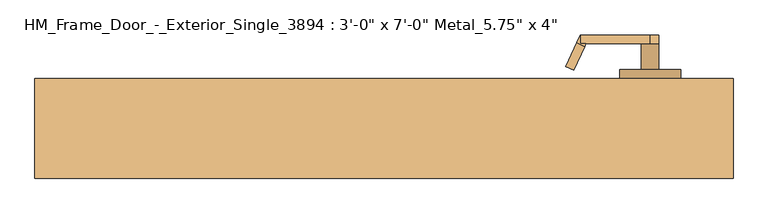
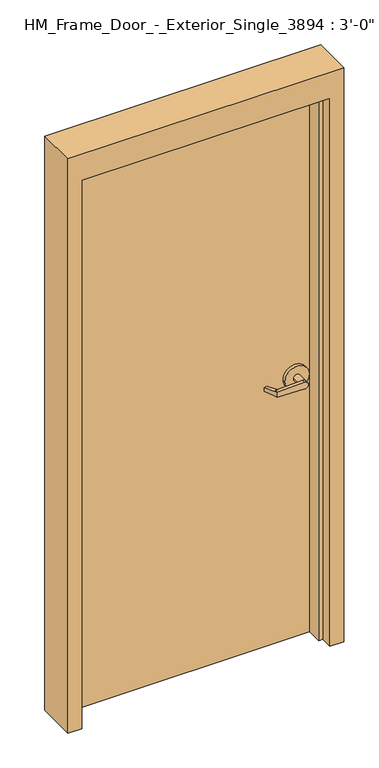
"""IFC4 building model written with IfcOpenShell, lengths in millimetres: door geometry."""

from ifc_helpers import new_model, si_unit, frame, origin, origin_with_axes, place, context, project, spatial, polyline, circle_curve, outline, extrude, faceted_brep, source, transform, mapped, element, save
from ifc_brep_helpers import plane_surface, cylinder_surface, advanced_brep


def door_65ba9089(model_context):
    return source(origin(), model_context, "Body", "SolidModel", [
        advanced_brep(
        [(291.892857, 35.9273608, 1006.475), (275.7911012, 70.4576875, 1009.65), (275.7911012, 70.4576875, 1022.35), (291.892857, 35.9273608, 1025.525), (293.8407923, 31.75, 1025.525), (293.8407923, 31.75, 1006.475), (285.75, 19.05, 1025.525), (280.3827481, 30.5601089, 1025.525), (264.2809923, 65.0904356, 1022.35), (264.2809923, 65.0904356, 1009.65), (280.3827481, 30.5601089, 1006.475), (285.75, 19.05, 1006.475), (285.75, 31.75, 1006.475), (285.75, 31.75, 1025.525), (386.9525418, 19.05, 1003.3062209), (386.9525418, 19.05, 1028.6937791), (386.9525418, 31.75, 1028.6937791), (374.65, 31.75, 1016.0), (386.9525418, 31.75, 1003.3062209), (400.05, 31.75, 1016.0), (400.05, 69.85, 1016.0), (374.65, 69.85, 1016.0), (431.8, 69.85, 1016.0), (342.9, 69.85, 1016.0), (431.8, 82.55, 1016.0), (342.9, 82.55, 1016.0)],
        [
            (0, 1),
            (1, 2),
            (2, 3),
            (3, 4),
            (4, 5),
            (5, 0),
            (6, 7),
            (7, 8),
            (8, 9),
            (9, 10),
            (10, 11),
            (11, 6),
            (10, 0),
            (5, 12),
            (12, 11),
            (9, 1),
            (8, 2),
            (7, 3),
            (6, 13),
            (13, 4),
            (11, 14),
            (14, 15, circle_curve(frame((387.35, 19.05, 1016.0), z_axis=(0.0, -1.0, 0.0), x_axis=(-1.0, 0.0, 0.0)), 12.7)),
            (15, 6),
            (13, 16),
            (16, 17, circle_curve(frame((387.35, 31.75, 1016.0), z_axis=(0.0, -1.0, 0.0), x_axis=(-1.0, 0.0, 0.0)), 12.7)),
            (17, 18, circle_curve(frame((387.35, 31.75, 1016.0), z_axis=(0.0, -1.0, 0.0), x_axis=(-1.0, 0.0, 0.0)), 12.7)),
            (18, 12),
            (18, 14),
            (18, 19, circle_curve(frame((387.35, 31.75, 1016.0), z_axis=(0.0, -1.0, 0.0), x_axis=(-1.0, 0.0, 0.0)), 12.7)),
            (19, 16, circle_curve(frame((387.35, 31.75, 1016.0), z_axis=(0.0, -1.0, 0.0), x_axis=(-1.0, 0.0, 0.0)), 12.7)),
            (16, 15),
            (19, 20),
            (20, 21, circle_curve(frame((387.35, 69.85, 1016.0), z_axis=(0.0, -1.0, 0.0), x_axis=(-1.0, 0.0, 0.0)), 12.7)),
            (21, 17),
            (21, 20, circle_curve(frame((387.35, 69.85, 1016.0), z_axis=(0.0, -1.0, 0.0), x_axis=(-1.0, 0.0, 0.0)), 12.7)),
            (22, 23, circle_curve(frame((387.35, 69.85, 1016.0), z_axis=(0.0, -1.0, 0.0), x_axis=(-1.0, 0.0, 0.0)), 44.45)),
            (23, 22, circle_curve(frame((387.35, 69.85, 1016.0), z_axis=(0.0, -1.0, 0.0), x_axis=(-1.0, 0.0, 0.0)), 44.45)),
            (24, 25, circle_curve(frame((387.35, 82.55, 1016.0), z_axis=(0.0, 1.0, 0.0), x_axis=(-1.0, 0.0, 0.0)), 44.45)),
            (25, 24, circle_curve(frame((387.35, 82.55, 1016.0), z_axis=(0.0, 1.0, 0.0), x_axis=(-1.0, 0.0, 0.0)), 44.45)),
            (22, 24),
            (25, 23),
        ],
        [
            plane_surface(frame((297.2601089, 24.4172519, 1006.475), z_axis=(0.9063077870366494, 0.4226182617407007, 0.0), x_axis=(0.0, 0.0, -1.0))),
            plane_surface(frame((285.75, 19.05, 1006.475), z_axis=(-0.9063077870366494, -0.4226182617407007, 0.0), x_axis=(0.0, 0.0, 1.0))),
            plane_surface(frame((297.2601089, 24.4172519, 1006.475), z_axis=(0.0, 0.0, -1.0000000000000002), x_axis=(-0.9063077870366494, -0.42261826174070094, 0.0))),
            plane_surface(frame((291.892857, 35.9273608, 1006.475), z_axis=(-0.035096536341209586, 0.07526476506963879, -0.9965457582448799), x_axis=(-0.9063077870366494, -0.42261826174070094, 0.0))),
            plane_surface(frame((275.7911012, 70.4576875, 1009.65), z_axis=(-0.42261826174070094, 0.9063077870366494, 0.0), x_axis=(-0.9063077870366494, -0.42261826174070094, 0.0))),
            plane_surface(frame((275.7911012, 70.4576875, 1022.35), z_axis=(-0.03509653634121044, 0.07526476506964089, 0.9965457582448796), x_axis=(-0.9063077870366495, -0.42261826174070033, 0.0))),
            plane_surface(frame((291.892857, 35.9273608, 1025.525), z_axis=(0.0, 0.0, 1.0000000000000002), x_axis=(-0.9063077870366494, -0.42261826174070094, 0.0))),
            plane_surface(frame((285.75, 19.05, 1006.475), z_axis=(0.0, -1.0, 0.0), x_axis=(0.9995101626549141, 0.0, -0.03129592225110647))),
            plane_surface(frame((285.75, 31.75, 1006.475), z_axis=(0.0, 1.0, 0.0), x_axis=(-0.9995101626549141, 0.0, 0.03129592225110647))),
            plane_surface(frame((285.75, 19.05, 1006.475), z_axis=(-0.03129592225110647, 0.0, -0.9995101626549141), x_axis=(0.0, 1.0, 0.0))),
            cylinder_surface(frame((387.35, 31.75, 1016.0), z_axis=(0.0, -1.0, 0.0), x_axis=(-1.0, 0.0, 0.0)), 12.7),
            plane_surface(frame((386.9525418, 19.05, 1028.6937791), z_axis=(-0.03129592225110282, 0.0, 0.9995101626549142), x_axis=(0.0, 1.0, 0.0))),
            cylinder_surface(frame((387.35, 69.85, 1016.0), z_axis=(0.0, -1.0, 0.0), x_axis=(-1.0, 0.0, 0.0)), 12.7),
            plane_surface(frame((342.9, 69.85, 1016.0), z_axis=(0.0, -1.0, 0.0), x_axis=(0.0, 0.0, -1.0))),
            plane_surface(frame((342.9, 82.55, 1016.0), z_axis=(0.0, 1.0, 0.0), x_axis=(0.0, 0.0, 1.0))),
            cylinder_surface(frame((387.35, 82.55, 1016.0), z_axis=(0.0, -1.0, 0.0), x_axis=(-1.0, 0.0, 0.0)), 44.45),
        ],
        [
            (0, [[1, 2, 3, 4, 5, 6]]),
            (1, [[7, 8, 9, 10, 11, 12]]),
            (2, [[-11, 13, -6, 14, 15]]),
            (3, [[-1, -13, -10, 16]]),
            (4, [[-2, -16, -9, 17]]),
            (5, [[-3, -17, -8, 18]]),
            (6, [[-7, 19, 20, -4, -18]]),
            (7, [[21, 22, 23, -12]]),
            (8, [[24, 25, 26, 27, -14, -5, -20]]),
            (9, [[-21, -15, -27, 28]]),
            (10, [[-22, -28, 29, 30, 31]]),
            (11, [[-23, -31, -24, -19]]),
            (12, [[32, 33, 34, -25, -30]]),
            (12, [[-32, -29, -26, -34, 35]]),
            (13, [[36, 37], [-33, -35]]),
            (14, [[38, 39]]),
            (15, [[-36, 40, -39, 41]]),
            (15, [[-37, -41, -38, -40]]),
        ],
    ),
        advanced_brep(
        [(291.892857, 173.6226392, 1025.525), (275.7911012, 139.0923125, 1022.35), (275.7911012, 139.0923125, 1009.65), (291.892857, 173.6226392, 1006.475), (293.8407923, 177.8, 1006.475), (293.8407923, 177.8, 1025.525), (285.75, 190.5, 1006.475), (280.3827481, 178.9898911, 1006.475), (264.2809923, 144.4595644, 1009.65), (264.2809923, 144.4595644, 1022.35), (280.3827481, 178.9898911, 1025.525), (285.75, 190.5, 1025.525), (285.75, 177.8, 1025.525), (285.75, 177.8, 1006.475), (386.9525418, 190.5, 1028.6937791), (386.9525418, 190.5, 1003.3062209), (386.9525418, 177.8, 1003.3062209), (374.65, 177.8, 1016.0), (386.9525418, 177.8, 1028.6937791), (400.05, 177.8, 1016.0), (400.05, 139.7, 1016.0), (374.65, 139.7, 1016.0), (431.8, 139.7, 1016.0), (342.9, 139.7, 1016.0), (431.8, 127.0, 1016.0), (342.9, 127.0, 1016.0)],
        [
            (0, 1),
            (1, 2),
            (2, 3),
            (3, 4),
            (4, 5),
            (5, 0),
            (6, 7),
            (7, 8),
            (8, 9),
            (9, 10),
            (10, 11),
            (11, 6),
            (10, 0),
            (5, 12),
            (12, 11),
            (9, 1),
            (8, 2),
            (7, 3),
            (6, 13),
            (13, 4),
            (11, 14),
            (14, 15, circle_curve(frame((387.35, 190.5, 1016.0), z_axis=(0.0, 1.0, 0.0), x_axis=(-1.0, 0.0, 0.0)), 12.7)),
            (15, 6),
            (13, 16),
            (16, 17, circle_curve(frame((387.35, 177.8, 1016.0), z_axis=(0.0, 1.0, 0.0), x_axis=(-1.0, 0.0, 0.0)), 12.7)),
            (17, 18, circle_curve(frame((387.35, 177.8, 1016.0), z_axis=(0.0, 1.0, 0.0), x_axis=(-1.0, 0.0, 0.0)), 12.7)),
            (18, 12),
            (18, 14),
            (18, 19, circle_curve(frame((387.35, 177.8, 1016.0), z_axis=(0.0, 1.0, 0.0), x_axis=(-1.0, 0.0, 0.0)), 12.7)),
            (19, 16, circle_curve(frame((387.35, 177.8, 1016.0), z_axis=(0.0, 1.0, 0.0), x_axis=(-1.0, 0.0, 0.0)), 12.7)),
            (16, 15),
            (19, 20),
            (20, 21, circle_curve(frame((387.35, 139.7, 1016.0), z_axis=(0.0, 1.0, 0.0), x_axis=(-1.0, 0.0, 0.0)), 12.7)),
            (21, 17),
            (21, 20, circle_curve(frame((387.35, 139.7, 1016.0), z_axis=(0.0, 1.0, 0.0), x_axis=(-1.0, 0.0, 0.0)), 12.7)),
            (22, 23, circle_curve(frame((387.35, 139.7, 1016.0), z_axis=(0.0, 1.0, 0.0), x_axis=(-1.0, 0.0, 0.0)), 44.45)),
            (23, 22, circle_curve(frame((387.35, 139.7, 1016.0), z_axis=(0.0, 1.0, 0.0), x_axis=(-1.0, 0.0, 0.0)), 44.45)),
            (24, 25, circle_curve(frame((387.35, 127.0, 1016.0), z_axis=(0.0, -1.0, 0.0), x_axis=(-1.0, 0.0, 0.0)), 44.45)),
            (25, 24, circle_curve(frame((387.35, 127.0, 1016.0), z_axis=(0.0, -1.0, 0.0), x_axis=(-1.0, 0.0, 0.0)), 44.45)),
            (22, 24),
            (25, 23),
        ],
        [
            plane_surface(frame((297.2601089, 185.1327481, 1025.525), z_axis=(0.9063077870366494, -0.4226182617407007, 0.0), x_axis=(0.0, 0.0, 1.0))),
            plane_surface(frame((285.75, 190.5, 1025.525), z_axis=(-0.9063077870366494, 0.4226182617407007, 0.0), x_axis=(0.0, 0.0, -1.0))),
            plane_surface(frame((297.2601089, 185.1327481, 1025.525), z_axis=(0.0, 0.0, 1.0000000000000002), x_axis=(-0.9063077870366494, 0.42261826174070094, 0.0))),
            plane_surface(frame((291.892857, 173.6226392, 1025.525), z_axis=(-0.03509653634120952, -0.07526476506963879, 0.9965457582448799), x_axis=(-0.9063077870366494, 0.42261826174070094, 0.0))),
            plane_surface(frame((275.7911012, 139.0923125, 1022.35), z_axis=(-0.42261826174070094, -0.9063077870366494, 0.0), x_axis=(-0.9063077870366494, 0.42261826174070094, 0.0))),
            plane_surface(frame((275.7911012, 139.0923125, 1009.65), z_axis=(-0.03509653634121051, -0.07526476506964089, -0.9965457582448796), x_axis=(-0.9063077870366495, 0.42261826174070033, 0.0))),
            plane_surface(frame((291.892857, 173.6226392, 1006.475), z_axis=(0.0, 0.0, -1.0000000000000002), x_axis=(-0.9063077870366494, 0.42261826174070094, 0.0))),
            plane_surface(frame((285.75, 190.5, 1025.525), z_axis=(0.0, 1.0, 0.0), x_axis=(0.9995101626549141, 0.0, 0.0312959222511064))),
            plane_surface(frame((285.75, 177.8, 1025.525), z_axis=(0.0, -1.0, 0.0), x_axis=(-0.9995101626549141, 0.0, -0.0312959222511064))),
            plane_surface(frame((285.75, 190.5, 1025.525), z_axis=(-0.0312959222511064, 0.0, 0.9995101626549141), x_axis=(0.0, -1.0, 0.0))),
            cylinder_surface(frame((387.35, 177.8, 1016.0), z_axis=(0.0, 1.0, 0.0), x_axis=(-1.0, 0.0, 0.0)), 12.7),
            plane_surface(frame((386.9525418, 190.5, 1003.3062209), z_axis=(-0.03129592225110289, 0.0, -0.9995101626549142), x_axis=(0.0, -1.0, 0.0))),
            cylinder_surface(frame((387.35, 139.7, 1016.0), z_axis=(0.0, 1.0, 0.0), x_axis=(-1.0, 0.0, 0.0)), 12.7),
            plane_surface(frame((342.9, 139.7, 1016.0), z_axis=(0.0, 1.0, 0.0), x_axis=(0.0, 0.0, 1.0))),
            plane_surface(frame((342.9, 127.0, 1016.0), z_axis=(0.0, -1.0, 0.0), x_axis=(0.0, 0.0, -1.0))),
            cylinder_surface(frame((387.35, 127.0, 1016.0), z_axis=(0.0, 1.0, 0.0), x_axis=(-1.0, 0.0, 0.0)), 44.45),
        ],
        [
            (0, [[1, 2, 3, 4, 5, 6]]),
            (1, [[7, 8, 9, 10, 11, 12]]),
            (2, [[-11, 13, -6, 14, 15]]),
            (3, [[-1, -13, -10, 16]]),
            (4, [[-2, -16, -9, 17]]),
            (5, [[-3, -17, -8, 18]]),
            (6, [[-7, 19, 20, -4, -18]]),
            (7, [[21, 22, 23, -12]]),
            (8, [[24, 25, 26, 27, -14, -5, -20]]),
            (9, [[-21, -15, -27, 28]]),
            (10, [[-22, -28, 29, 30, 31]]),
            (11, [[-23, -31, -24, -19]]),
            (12, [[32, 33, 34, -25, -30]]),
            (12, [[-32, -29, -26, -34, 35]]),
            (13, [[36, 37], [-33, -35]]),
            (14, [[38, 39]]),
            (15, [[-36, 40, -39, 41]]),
            (15, [[-37, -41, -38, -40]]),
        ],
    ),
        extrude(outline(polyline([(-457.2, 127.0), (457.2, 127.0), (457.2, 82.55), (-457.2, 82.55), (-457.2, 127.0)])), origin_with_axes(), (0.0, 0.0, 1.0), 2133.6),
        faceted_brep([(-457.2, 127.0, 0.0), (-457.2, 82.55, 0.0), (-441.325, 82.55, 0.0), (-441.325, 25.4, 0.0), (-457.2, 25.4, 0.0), (-457.2, -19.05, 0.0), (-508.0, -19.05, 0.0), (-508.0, 127.0, 0.0), (-457.2, 127.0, 2133.6), (-457.2, 82.55, 2133.6), (457.2, 82.55, 2133.6), (457.2, 82.55, 0.0), (441.325, 82.55, 0.0), (441.325, 82.55, 2117.725), (-441.325, 82.55, 2117.725), (-441.325, 25.4, 2117.725), (441.325, 25.4, 2117.725), (441.325, 25.4, 0.0), (457.2, 25.4, 0.0), (457.2, 25.4, 2133.6), (-457.2, 25.4, 2133.6), (-457.2, -19.05, 2133.6), (457.2, -19.05, 2133.6), (457.2, -19.05, 0.0), (508.0, -19.05, 0.0), (508.0, -19.05, 2235.2), (-508.0, -19.05, 2235.2), (-508.0, 127.0, 2235.2), (508.0, 127.0, 2235.2), (508.0, 127.0, 0.0), (457.2, 127.0, 0.0), (457.2, 127.0, 2133.6)], [[[0, 1, 2, 3, 4, 5, 6, 7]], [[1, 0, 8, 9]], [[2, 1, 9, 10, 11, 12, 13, 14]], [[3, 2, 14, 15]], [[4, 3, 15, 16, 17, 18, 19, 20]], [[5, 4, 20, 21]], [[6, 5, 21, 22, 23, 24, 25, 26]], [[7, 6, 26, 27]], [[0, 7, 27, 28, 29, 30, 31, 8]], [[29, 28, 25, 24]], [[25, 28, 27, 26]], [[21, 20, 19, 22]], [[15, 14, 13, 16]], [[10, 9, 8, 31]], [[30, 29, 24, 23, 18, 17, 12, 11]], [[19, 18, 23, 22]], [[12, 17, 16, 13]], [[30, 11, 10, 31]]]),
    ])


if __name__ == "__main__":
    model = new_model("IFC4")
    model_context = context("Model", 3, world=origin())
    ifc_project = project(units=[si_unit("LENGTHUNIT", "METRE", prefix="MILLI")], contexts=[model_context])
    site = spatial("IfcSite", under=ifc_project)
    building = spatial("IfcBuilding", under=site)
    placement = place(None, origin())
    door_shape = door_65ba9089(model_context)
    element("IfcDoor", 1, ObjectType="HM_Frame_Door_-_Exterior_Single_3894 : 3'-0\" x 7'-0\" Metal_5.75\" x 4\"", at=placement, inside=building, context=model_context, shape_type="MappedRepresentation", body=[
        mapped(door_shape, transform((0.0, 0.0, 0.0), x_axis=(1.0, 0.0, 0.0), y_axis=(0.0, 1.0, 0.0), z_axis=(0.0, 0.0, 1.0))),
    ])
    save(model, "model.ifc")
